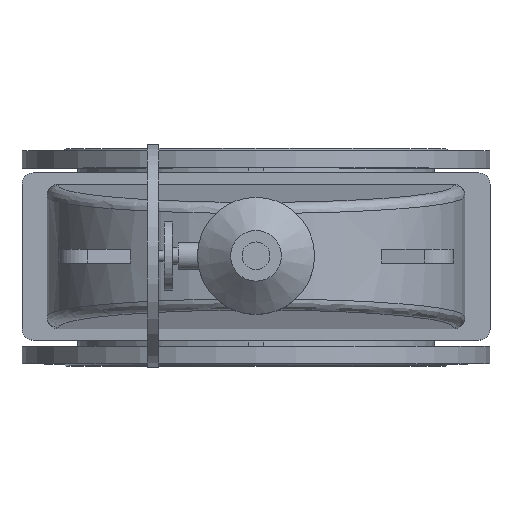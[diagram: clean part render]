
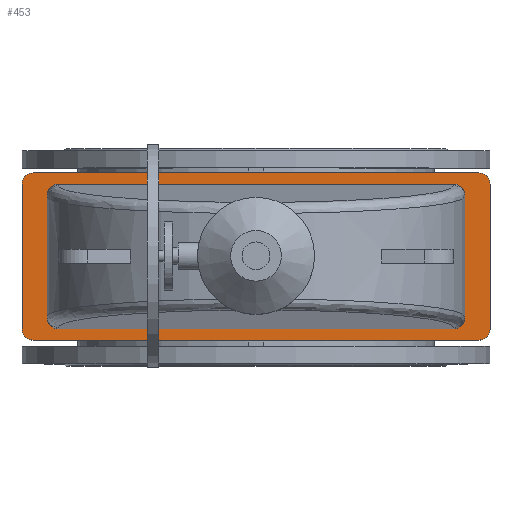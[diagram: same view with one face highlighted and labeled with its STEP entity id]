
A CAD part, top view. The second image highlights one B-rep face of the part: STEP entity #453.
In plain terms, the highlighted planar face has unit normal (0, 0, 1).
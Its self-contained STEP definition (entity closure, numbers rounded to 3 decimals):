
#453=ADVANCED_FACE('',(#4455,#4457),#4459,.T.);
#4455=FACE_BOUND('',#4456,.T.);
#4456=EDGE_LOOP('',(#8772,#8773,#8774,#8775,#8776,#8777,#8778,#8779));
#4457=FACE_BOUND('',#4458,.T.);
#4458=EDGE_LOOP('',(#8780,#8781,#8782,#8783,#8784,#8785,#8786,#8787));
#4459=PLANE('',#4460);
#4460=AXIS2_PLACEMENT_3D('',#4461,#4462,#4463);
#4461=CARTESIAN_POINT('',(0.,0.,876.));
#4462=DIRECTION('',(0.,-0.,1.));
#4463=DIRECTION('',(0.,1.,0.));
#8772=ORIENTED_EDGE('',*,*,#10638,.F.);
#8773=ORIENTED_EDGE('',*,*,#10639,.T.);
#8774=ORIENTED_EDGE('',*,*,#10640,.F.);
#8775=ORIENTED_EDGE('',*,*,#10641,.T.);
#8776=ORIENTED_EDGE('',*,*,#10642,.F.);
#8777=ORIENTED_EDGE('',*,*,#10643,.T.);
#8778=ORIENTED_EDGE('',*,*,#10644,.F.);
#8779=ORIENTED_EDGE('',*,*,#10645,.T.);
#8780=ORIENTED_EDGE('',*,*,#10636,.F.);
#8781=ORIENTED_EDGE('',*,*,#10635,.F.);
#8782=ORIENTED_EDGE('',*,*,#10637,.F.);
#8783=ORIENTED_EDGE('',*,*,#10610,.F.);
#8784=ORIENTED_EDGE('',*,*,#10646,.F.);
#8785=ORIENTED_EDGE('',*,*,#10647,.F.);
#8786=ORIENTED_EDGE('',*,*,#10648,.F.);
#8787=ORIENTED_EDGE('',*,*,#10603,.F.);
#10603=EDGE_CURVE('',#11606,#11608,#11609,.T.);
#10610=EDGE_CURVE('',#11618,#11616,#11620,.T.);
#10635=EDGE_CURVE('',#11659,#11657,#11661,.T.);
#10636=EDGE_CURVE('',#11657,#11606,#11662,.F.);
#10637=EDGE_CURVE('',#11616,#11659,#11663,.T.);
#10638=EDGE_CURVE('',#11664,#11665,#11666,.F.);
#10639=EDGE_CURVE('',#11664,#11667,#11668,.T.);
#10640=EDGE_CURVE('',#11669,#11667,#11670,.F.);
#10641=EDGE_CURVE('',#11669,#11671,#11672,.T.);
#10642=EDGE_CURVE('',#11673,#11671,#11674,.F.);
#10643=EDGE_CURVE('',#11673,#11675,#11676,.T.);
#10644=EDGE_CURVE('',#11677,#11675,#11678,.F.);
#10645=EDGE_CURVE('',#11677,#11665,#11679,.T.);
#10646=EDGE_CURVE('',#11680,#11618,#11681,.F.);
#10647=EDGE_CURVE('',#11682,#11680,#11683,.T.);
#10648=EDGE_CURVE('',#11608,#11682,#11684,.T.);
#11606=VERTEX_POINT('',#13574);
#11608=VERTEX_POINT('',#13578);
#11609=LINE('',#13579,#13580);
#11616=VERTEX_POINT('',#13599);
#11618=VERTEX_POINT('',#13603);
#11620=LINE('',#13607,#13608);
#11657=VERTEX_POINT('',#13700);
#11659=VERTEX_POINT('',#13704);
#11661=LINE('',#13708,#13709);
#11662=(BOUNDED_CURVE()B_SPLINE_CURVE(3,
(#13711,#13712,#13713,#13714),
.UNSPECIFIED.,.F.,.F.)B_SPLINE_CURVE_WITH_KNOTS((4,4),
(0.,1.),
.UNSPECIFIED.)CURVE()GEOMETRIC_REPRESENTATION_ITEM()RATIONAL_B_SPLINE_CURVE((1.,
0.805,0.805,1.))REPRESENTATION_ITEM(''));
#11663=(BOUNDED_CURVE()B_SPLINE_CURVE(3,
(#13715,#13716,#13717,#13718),
.UNSPECIFIED.,.F.,.F.)B_SPLINE_CURVE_WITH_KNOTS((4,4),
(0.,1.),
.UNSPECIFIED.)CURVE()GEOMETRIC_REPRESENTATION_ITEM()RATIONAL_B_SPLINE_CURVE((1.,
0.805,0.805,1.))REPRESENTATION_ITEM(''));
#11664=VERTEX_POINT('',#13719);
#11665=VERTEX_POINT('',#13720);
#11666=CIRCLE('',#13721,20.);
#11667=VERTEX_POINT('',#13725);
#11668=LINE('',#13726,#13727);
#11669=VERTEX_POINT('',#13729);
#11670=CIRCLE('',#13730,20.);
#11671=VERTEX_POINT('',#13734);
#11672=LINE('',#13735,#13736);
#11673=VERTEX_POINT('',#13738);
#11674=CIRCLE('',#13739,20.);
#11675=VERTEX_POINT('',#13743);
#11676=LINE('',#13744,#13745);
#11677=VERTEX_POINT('',#13747);
#11678=CIRCLE('',#13748,20.);
#11679=LINE('',#13752,#13753);
#11680=VERTEX_POINT('',#13755);
#11681=(BOUNDED_CURVE()B_SPLINE_CURVE(3,
(#13756,#13757,#13758,#13759),
.UNSPECIFIED.,.F.,.F.)B_SPLINE_CURVE_WITH_KNOTS((4,4),
(0.,1.),
.UNSPECIFIED.)CURVE()GEOMETRIC_REPRESENTATION_ITEM()RATIONAL_B_SPLINE_CURVE((1.,
0.805,0.805,1.))REPRESENTATION_ITEM(''));
#11682=VERTEX_POINT('',#13760);
#11683=LINE('',#13761,#13762);
#11684=(BOUNDED_CURVE()B_SPLINE_CURVE(3,
(#13764,#13765,#13766,#13767),
.UNSPECIFIED.,.F.,.F.)B_SPLINE_CURVE_WITH_KNOTS((4,4),
(0.,1.),
.UNSPECIFIED.)CURVE()GEOMETRIC_REPRESENTATION_ITEM()RATIONAL_B_SPLINE_CURVE((1.,
0.805,0.805,1.))REPRESENTATION_ITEM(''));
#13574=CARTESIAN_POINT('',(375.,-109.924,876.));
#13578=CARTESIAN_POINT('',(375.,109.924,876.));
#13579=CARTESIAN_POINT('',(375.,-109.924,876.));
#13580=VECTOR('',#13581,1.);
#13581=DIRECTION('',(0.,1.,0.));
#13599=CARTESIAN_POINT('',(-375.,-109.924,876.));
#13603=CARTESIAN_POINT('',(-375.,109.924,876.));
#13607=CARTESIAN_POINT('',(-375.,109.924,876.));
#13608=VECTOR('',#13609,1.);
#13609=DIRECTION('',(0.,-1.,0.));
#13700=CARTESIAN_POINT('',(355.,-130.,876.));
#13704=CARTESIAN_POINT('',(-355.,-130.,876.));
#13708=CARTESIAN_POINT('',(-355.,-130.,876.));
#13709=VECTOR('',#13710,1.);
#13710=DIRECTION('',(1.,0.,0.));
#13711=CARTESIAN_POINT('',(375.,-109.924,876.));
#13712=CARTESIAN_POINT('',(375.,-121.684,876.));
#13713=CARTESIAN_POINT('',(366.716,-130.,876.));
#13714=CARTESIAN_POINT('',(355.,-130.,876.));
#13715=CARTESIAN_POINT('',(-375.,-109.924,876.));
#13716=CARTESIAN_POINT('',(-375.,-121.684,876.));
#13717=CARTESIAN_POINT('',(-366.716,-130.,876.));
#13718=CARTESIAN_POINT('',(-355.,-130.,876.));
#13719=CARTESIAN_POINT('',(-400.,-150.,876.));
#13720=CARTESIAN_POINT('',(-420.,-130.,876.));
#13721=AXIS2_PLACEMENT_3D('',#13722,#13723,#13724);
#13722=CARTESIAN_POINT('',(-400.,-130.,876.));
#13723=DIRECTION('',(0.,-0.,1.));
#13724=DIRECTION('',(-1.,0.,0.));
#13725=CARTESIAN_POINT('',(400.,-150.,876.));
#13726=CARTESIAN_POINT('',(-400.,-150.,876.));
#13727=VECTOR('',#13728,1.);
#13728=DIRECTION('',(1.,0.,0.));
#13729=CARTESIAN_POINT('',(420.,-130.,876.));
#13730=AXIS2_PLACEMENT_3D('',#13731,#13732,#13733);
#13731=CARTESIAN_POINT('',(400.,-130.,876.));
#13732=DIRECTION('',(0.,-0.,1.));
#13733=DIRECTION('',(0.,-1.,0.));
#13734=CARTESIAN_POINT('',(420.,130.,876.));
#13735=CARTESIAN_POINT('',(420.,-130.,876.));
#13736=VECTOR('',#13737,1.);
#13737=DIRECTION('',(0.,1.,0.));
#13738=CARTESIAN_POINT('',(400.,150.,876.));
#13739=AXIS2_PLACEMENT_3D('',#13740,#13741,#13742);
#13740=CARTESIAN_POINT('',(400.,130.,876.));
#13741=DIRECTION('',(0.,-0.,1.));
#13742=DIRECTION('',(1.,0.,0.));
#13743=CARTESIAN_POINT('',(-400.,150.,876.));
#13744=CARTESIAN_POINT('',(400.,150.,876.));
#13745=VECTOR('',#13746,1.);
#13746=DIRECTION('',(-1.,0.,0.));
#13747=CARTESIAN_POINT('',(-420.,130.,876.));
#13748=AXIS2_PLACEMENT_3D('',#13749,#13750,#13751);
#13749=CARTESIAN_POINT('',(-400.,130.,876.));
#13750=DIRECTION('',(0.,-0.,1.));
#13751=DIRECTION('',(0.,1.,0.));
#13752=CARTESIAN_POINT('',(-420.,130.,876.));
#13753=VECTOR('',#13754,1.);
#13754=DIRECTION('',(0.,-1.,0.));
#13755=CARTESIAN_POINT('',(-355.,130.,876.));
#13756=CARTESIAN_POINT('',(-375.,109.924,876.));
#13757=CARTESIAN_POINT('',(-375.,121.684,876.));
#13758=CARTESIAN_POINT('',(-366.716,130.,876.));
#13759=CARTESIAN_POINT('',(-355.,130.,876.));
#13760=CARTESIAN_POINT('',(355.,130.,876.));
#13761=CARTESIAN_POINT('',(355.,130.,876.));
#13762=VECTOR('',#13763,1.);
#13763=DIRECTION('',(-1.,0.,0.));
#13764=CARTESIAN_POINT('',(375.,109.924,876.));
#13765=CARTESIAN_POINT('',(375.,121.684,876.));
#13766=CARTESIAN_POINT('',(366.716,130.,876.));
#13767=CARTESIAN_POINT('',(355.,130.,876.));
